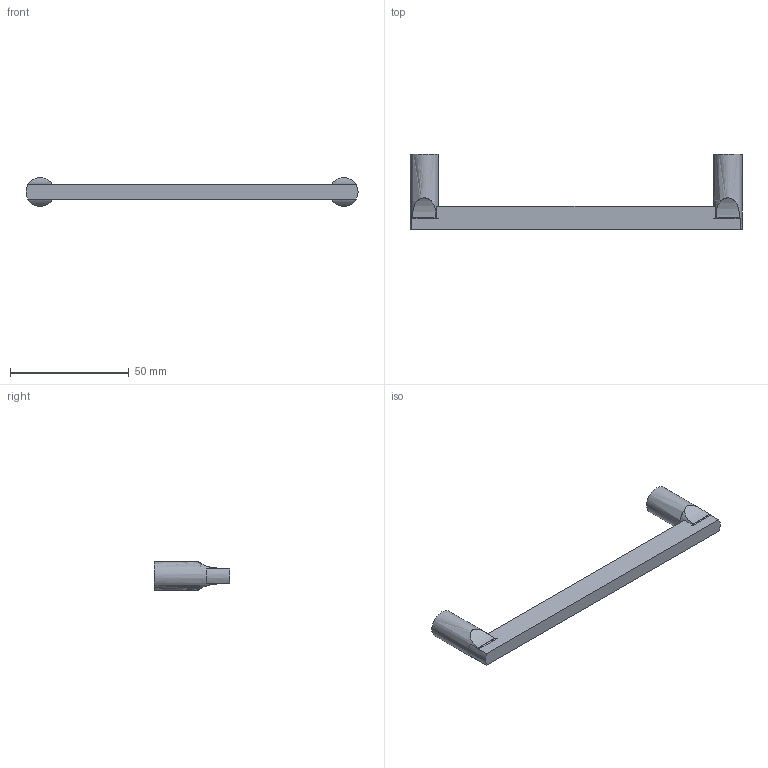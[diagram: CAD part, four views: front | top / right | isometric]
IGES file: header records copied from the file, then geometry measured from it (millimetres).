
Start section: Data from Parasolid IGES Translator 15.0.47, Copyright(c) 2006 Siemens P LM Software. All Rights Reserved.
Global section: file name: 9208031.igs; native system:  By UGS Corp.; preprocessor: XPlus GENERIC/IGES 3.0; author: Noname; organization: Noname; date: 20151127.172128; units: millimetre
Bounding box: 140 x 32 x 12 mm (x, y, z)
Surface area: 6593.2 mm2 (no closed solid volume)
Topology: 0 solids, 0 shells, 30 faces, 228 edges, 224 vertices
Faces by surface type: revolution 19, extrusion 11
